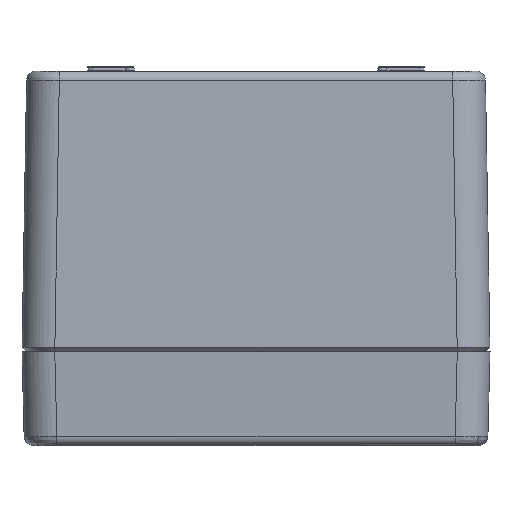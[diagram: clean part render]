
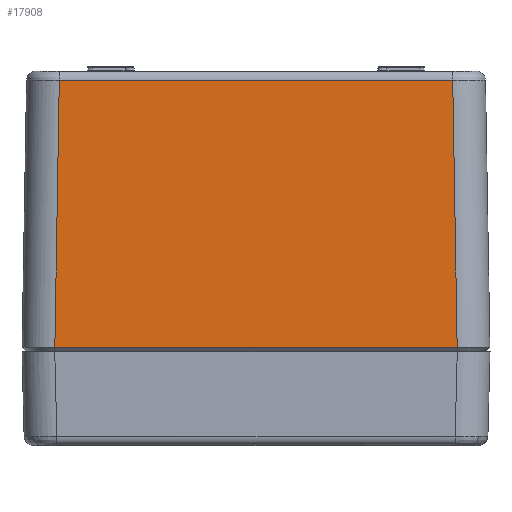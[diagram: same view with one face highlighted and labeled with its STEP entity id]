
A CAD part, left-side view. The second image highlights one B-rep face of the part: STEP entity #17908.
In plain terms, the highlighted planar face has unit normal (-1, 0, 0.017) as drawn and (-1, 0, -0.017) by its records, which use the part's own axes.
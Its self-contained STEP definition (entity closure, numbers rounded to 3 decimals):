
#867=PLANE('',#19374);
#1545=FACE_OUTER_BOUND('',#2698,.T.);
#2698=EDGE_LOOP('',(#13111,#13112,#13113,#13114));
#4091=LINE('',#28662,#5709);
#4092=LINE('',#28665,#5710);
#4093=LINE('',#28667,#5711);
#4094=LINE('',#28668,#5712);
#5709=VECTOR('',#22017,10.);
#5710=VECTOR('',#22020,1000.);
#5711=VECTOR('',#22021,1000.);
#5712=VECTOR('',#22022,1000.);
#8203=VERTEX_POINT('',#28491);
#8215=VERTEX_POINT('',#28647);
#8216=VERTEX_POINT('',#28664);
#8217=VERTEX_POINT('',#28666);
#10103=EDGE_CURVE('',#8203,#8215,#4091,.T.);
#10104=EDGE_CURVE('',#8216,#8203,#4092,.T.);
#10105=EDGE_CURVE('',#8216,#8217,#4093,.T.);
#10106=EDGE_CURVE('',#8217,#8215,#4094,.T.);
#13111=ORIENTED_EDGE('',*,*,#10104,.F.);
#13112=ORIENTED_EDGE('',*,*,#10105,.T.);
#13113=ORIENTED_EDGE('',*,*,#10106,.T.);
#13114=ORIENTED_EDGE('',*,*,#10103,.F.);
#17908=ADVANCED_FACE('',(#1545),#867,.T.);
#19374=AXIS2_PLACEMENT_3D('',#28663,#22018,#22019);
#22017=DIRECTION('',(0.,-1.,0.));
#22018=DIRECTION('center_axis',(-1.,0.,
-0.017));
#22019=DIRECTION('ref_axis',(-0.017,0.,1.));
#22020=DIRECTION('',(-0.017,0.017,1.));
#22021=DIRECTION('',(0.,-1.,0.));
#22022=DIRECTION('',(-0.017,-0.017,1.));
#28491=CARTESIAN_POINT('',(-79.983,42.984,-1.));
#28647=CARTESIAN_POINT('',(-79.983,-42.984,-1.));
#28662=CARTESIAN_POINT('',(-79.983,0.,-1.));
#28663=CARTESIAN_POINT('Origin',(-80.,50.,0.));
#28664=CARTESIAN_POINT('',(-79.033,42.034,-58.033));
#28665=CARTESIAN_POINT('',(-79.,42.001,-60.));
#28666=CARTESIAN_POINT('',(-79.033,-42.034,-58.033));
#28667=CARTESIAN_POINT('',(-79.033,-42.001,-58.033));
#28668=CARTESIAN_POINT('',(-79.,-42.001,-60.));
